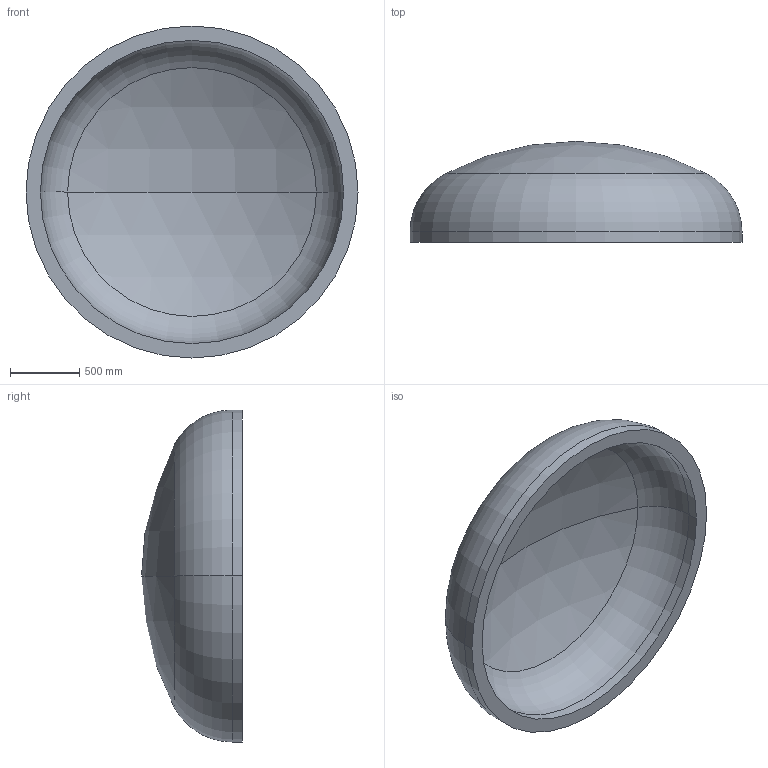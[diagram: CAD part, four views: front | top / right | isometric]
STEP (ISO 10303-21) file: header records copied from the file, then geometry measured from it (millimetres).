
FILE_DESCRIPTION (( 'STEP AP203' ), '1' );
FILE_NAME ('DIN 28013 Korbbogenform_-_Boden DIN 28013 - 2400 x 75 - I - s=104.step', '2016-07-01T15:43:15', ( '' ), ( '' ), 'SwSTEP 2.0', 'SolidWorks 2013', '' );
FILE_SCHEMA (( 'CONFIG_CONTROL_DESIGN' ));
Length unit declared in the file: millimetre
Products named in the file (1): DIN 28013 Korbbogenform_-_Boden DIN 28013 - 2400 x 75 - I - s=104
Bounding box: 2400 x 729.54 x 2400 mm (x, y, z)
Volume: 672530362.3 mm3; surface area: 13706087.4 mm2
Topology: 1 solids, 1 shells, 13 faces, 24 edges, 14 vertices
Faces by surface type: torus 4, cylinder 4, sphere 4, plane 1
Entity records: 407 total; most frequent: DIRECTION 72, CARTESIAN_POINT 52, ORIENTED_EDGE 48, AXIS2_PLACEMENT_3D 34, EDGE_CURVE 24, CIRCLE 20, EDGE_LOOP 14, VERTEX_POINT 14
